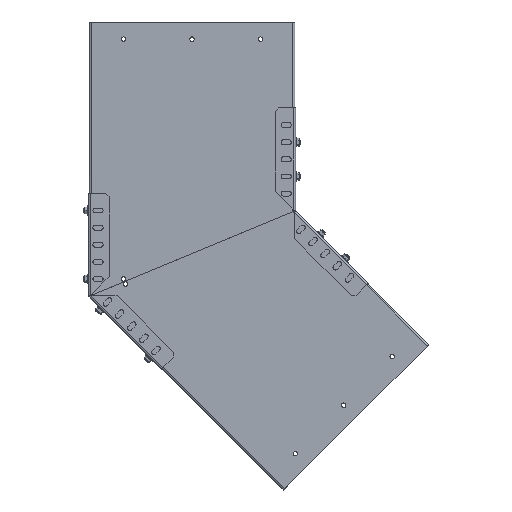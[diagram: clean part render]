
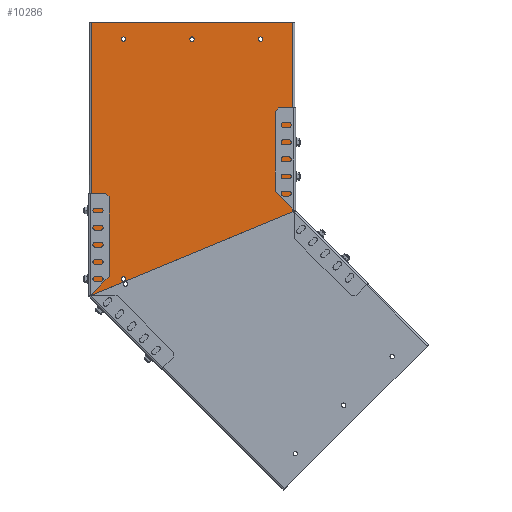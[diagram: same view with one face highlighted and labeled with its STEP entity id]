
A CAD part, front view. The second image highlights one B-rep face of the part: STEP entity #10286.
In plain terms, the highlighted planar face has unit normal (0, -1, 0).
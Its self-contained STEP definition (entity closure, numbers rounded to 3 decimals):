
#89 = ORIENTED_EDGE ( 'NONE', *, *, #16099, .F. ) ;
#322 = EDGE_CURVE ( 'NONE', #1106, #8700, #13511, .T. ) ;
#341 = EDGE_CURVE ( 'NONE', #1106, #16448, #12726, .T. ) ;
#364 = EDGE_CURVE ( 'NONE', #16448, #11587, #12709, .T. ) ;
#369 = EDGE_CURVE ( 'NONE', #8947, #8679, #12438, .T. ) ;
#1048 = CARTESIAN_POINT ( 'NONE',  ( 147., 0., 200. ) ) ;
#1106 = VERTEX_POINT ( 'NONE', #1048 ) ;
#1314 = ORIENTED_EDGE ( 'NONE', *, *, #322, .F. ) ;
#1603 = EDGE_CURVE ( 'NONE', #8804, #1900, #14546, .T. ) ;
#1900 = VERTEX_POINT ( 'NONE', #14321 ) ;
#2128 = ORIENTED_EDGE ( 'NONE', *, *, #1603, .F. ) ;
#2373 = ORIENTED_EDGE ( 'NONE', *, *, #364, .T. ) ;
#2825 = ORIENTED_EDGE ( 'NONE', *, *, #341, .T. ) ;
#3314 = CARTESIAN_POINT ( 'NONE',  ( -147., 0., 200. ) ) ;
#3336 = VERTEX_POINT ( 'NONE', #14222 ) ;
#3434 = CARTESIAN_POINT ( 'NONE',  ( -3.25, 0., 175. ) ) ;
#3548 = CARTESIAN_POINT ( 'NONE',  ( 147., 0., -76.979 ) ) ;
#3776 = ORIENTED_EDGE ( 'NONE', *, *, #16148, .F. ) ;
#3796 = DIRECTION ( 'NONE',  ( 1., 0., 0. ) ) ;
#3839 = ORIENTED_EDGE ( 'NONE', *, *, #16571, .T. ) ;
#3934 = DIRECTION ( 'NONE',  ( 0., -1., 0. ) ) ;
#3956 = CARTESIAN_POINT ( 'NONE',  ( 100., 0., 175. ) ) ;
#4457 = EDGE_LOOP ( 'NONE', ( #11241, #15599 ) ) ;
#6096 = CARTESIAN_POINT ( 'NONE',  ( -96.75, 0., -175. ) ) ;
#6376 = FACE_BOUND ( 'NONE', #12757, .T. ) ;
#6396 = FACE_BOUND ( 'NONE', #14133, .T. ) ;
#6428 = FACE_BOUND ( 'NONE', #4457, .T. ) ;
#6468 = FACE_BOUND ( 'NONE', #10049, .T. ) ;
#6484 = FACE_OUTER_BOUND ( 'NONE', #13157, .T. ) ;
#6491 = CARTESIAN_POINT ( 'NONE',  ( 150., 0., 200. ) ) ;
#6601 = AXIS2_PLACEMENT_3D ( 'NONE', #16324, #16293, #16233 ) ;
#6961 = CARTESIAN_POINT ( 'NONE',  ( -103.25, 0., 175. ) ) ;
#7420 = AXIS2_PLACEMENT_3D ( 'NONE', #6491, #15282, #7633 ) ;
#7578 = VERTEX_POINT ( 'NONE', #3434 ) ;
#7633 = DIRECTION ( 'NONE',  ( 1., 0., 0. ) ) ;
#8415 = CARTESIAN_POINT ( 'NONE',  ( -103.25, 0., -175. ) ) ;
#8679 = VERTEX_POINT ( 'NONE', #6096 ) ;
#8700 = VERTEX_POINT ( 'NONE', #3548 ) ;
#8804 = VERTEX_POINT ( 'NONE', #16011 ) ;
#8947 = VERTEX_POINT ( 'NONE', #8415 ) ;
#9230 = CIRCLE ( 'NONE', #12599, 3.25 ) ;
#9291 = VECTOR ( 'NONE', #15527, 1000. ) ;
#9325 = CIRCLE ( 'NONE', #12645, 3.25 ) ;
#9328 = LINE ( 'NONE', #15626, #9291 ) ;
#9617 = AXIS2_PLACEMENT_3D ( 'NONE', #3956, #3934, #3796 ) ;
#9850 = DIRECTION ( 'NONE',  ( 1., 0., 0. ) ) ;
#10049 = EDGE_LOOP ( 'NONE', ( #15391, #10529 ) ) ;
#10286 = ADVANCED_FACE ( 'NONE', ( #6484, #6468, #6428, #6376, #6396 ), #13930, .T. ) ;
#10422 = VERTEX_POINT ( 'NONE', #6961 ) ;
#10529 = ORIENTED_EDGE ( 'NONE', *, *, #16059, .T. ) ;
#10721 = CIRCLE ( 'NONE', #14360, 3.25 ) ;
#10926 = CIRCLE ( 'NONE', #14468, 3.25 ) ;
#10968 = CARTESIAN_POINT ( 'NONE',  ( -147., 0., -198.757 ) ) ;
#11111 = AXIS2_PLACEMENT_3D ( 'NONE', #16596, #16600, #9850 ) ;
#11163 = CIRCLE ( 'NONE', #14537, 3.25 ) ;
#11208 = CIRCLE ( 'NONE', #6601, 3.25 ) ;
#11241 = ORIENTED_EDGE ( 'NONE', *, *, #16195, .F. ) ;
#11587 = VERTEX_POINT ( 'NONE', #10968 ) ;
#11842 = VERTEX_POINT ( 'NONE', #11858 ) ;
#11858 = CARTESIAN_POINT ( 'NONE',  ( -96.75, 0., 175. ) ) ;
#11970 = DIRECTION ( 'NONE',  ( 0., 0., -1. ) ) ;
#12037 = DIRECTION ( 'NONE',  ( 1., 0., 0. ) ) ;
#12138 = DIRECTION ( 'NONE',  ( 0., -1., 0. ) ) ;
#12298 = VECTOR ( 'NONE', #11970, 1000. ) ;
#12351 = CARTESIAN_POINT ( 'NONE',  ( 0., 0., 175. ) ) ;
#12438 = CIRCLE ( 'NONE', #11111, 3.25 ) ;
#12478 = VECTOR ( 'NONE', #15150, 1000. ) ;
#12599 = AXIS2_PLACEMENT_3D ( 'NONE', #15165, #15162, #15138 ) ;
#12645 = AXIS2_PLACEMENT_3D ( 'NONE', #15338, #15334, #15311 ) ;
#12709 = LINE ( 'NONE', #15648, #12298 ) ;
#12717 = ORIENTED_EDGE ( 'NONE', *, *, #16599, .F. ) ;
#12726 = LINE ( 'NONE', #15407, #12478 ) ;
#12757 = EDGE_LOOP ( 'NONE', ( #3776, #12717 ) ) ;
#13157 = EDGE_LOOP ( 'NONE', ( #3839, #1314, #2825, #2373 ) ) ;
#13259 = VECTOR ( 'NONE', #16432, 1000. ) ;
#13347 = DIRECTION ( 'NONE',  ( 1., 0., 0. ) ) ;
#13359 = DIRECTION ( 'NONE',  ( 0., -1., 0. ) ) ;
#13411 = CARTESIAN_POINT ( 'NONE',  ( -100., 0., 175. ) ) ;
#13511 = LINE ( 'NONE', #16266, #13259 ) ;
#13930 = PLANE ( 'NONE',  #7420 ) ;
#14133 = EDGE_LOOP ( 'NONE', ( #89, #2128 ) ) ;
#14222 = CARTESIAN_POINT ( 'NONE',  ( 3.25, 0., 175. ) ) ;
#14321 = CARTESIAN_POINT ( 'NONE',  ( 96.75, 0., 175. ) ) ;
#14360 = AXIS2_PLACEMENT_3D ( 'NONE', #12351, #12138, #12037 ) ;
#14468 = AXIS2_PLACEMENT_3D ( 'NONE', #13411, #13359, #13347 ) ;
#14537 = AXIS2_PLACEMENT_3D ( 'NONE', #14681, #14597, #14578 ) ;
#14546 = CIRCLE ( 'NONE', #9617, 3.25 ) ;
#14578 = DIRECTION ( 'NONE',  ( 1., 0., 0. ) ) ;
#14597 = DIRECTION ( 'NONE',  ( 0., -1., 0. ) ) ;
#14681 = CARTESIAN_POINT ( 'NONE',  ( 100., 0., 175. ) ) ;
#15138 = DIRECTION ( 'NONE',  ( 1., 0., 0. ) ) ;
#15150 = DIRECTION ( 'NONE',  ( -1., 0., 0. ) ) ;
#15162 = DIRECTION ( 'NONE',  ( 0., -1., 0. ) ) ;
#15165 = CARTESIAN_POINT ( 'NONE',  ( -100., 0., 175. ) ) ;
#15282 = DIRECTION ( 'NONE',  ( 0., -1., 0. ) ) ;
#15311 = DIRECTION ( 'NONE',  ( 1., 0., 0. ) ) ;
#15334 = DIRECTION ( 'NONE',  ( 0., -1., 0. ) ) ;
#15338 = CARTESIAN_POINT ( 'NONE',  ( 0., 0., 175. ) ) ;
#15391 = ORIENTED_EDGE ( 'NONE', *, *, #369, .T. ) ;
#15407 = CARTESIAN_POINT ( 'NONE',  ( 0., 0., 200. ) ) ;
#15527 = DIRECTION ( 'NONE',  ( 0.924, 0., 0.383 ) ) ;
#15599 = ORIENTED_EDGE ( 'NONE', *, *, #16576, .F. ) ;
#15626 = CARTESIAN_POINT ( 'NONE',  ( -150., 0., -200. ) ) ;
#15648 = CARTESIAN_POINT ( 'NONE',  ( -147., 0., 200. ) ) ;
#16011 = CARTESIAN_POINT ( 'NONE',  ( 103.25, 0., 175. ) ) ;
#16059 = EDGE_CURVE ( 'NONE', #8679, #8947, #11208, .T. ) ;
#16099 = EDGE_CURVE ( 'NONE', #1900, #8804, #11163, .T. ) ;
#16148 = EDGE_CURVE ( 'NONE', #10422, #11842, #10926, .T. ) ;
#16195 = EDGE_CURVE ( 'NONE', #7578, #3336, #10721, .T. ) ;
#16233 = DIRECTION ( 'NONE',  ( 1., 0., 0. ) ) ;
#16266 = CARTESIAN_POINT ( 'NONE',  ( 147., 0., 200. ) ) ;
#16293 = DIRECTION ( 'NONE',  ( 0., 1., 0. ) ) ;
#16324 = CARTESIAN_POINT ( 'NONE',  ( -100., 0., -175. ) ) ;
#16432 = DIRECTION ( 'NONE',  ( 0., 0., -1. ) ) ;
#16448 = VERTEX_POINT ( 'NONE', #3314 ) ;
#16571 = EDGE_CURVE ( 'NONE', #11587, #8700, #9328, .T. ) ;
#16576 = EDGE_CURVE ( 'NONE', #3336, #7578, #9325, .T. ) ;
#16596 = CARTESIAN_POINT ( 'NONE',  ( -100., 0., -175. ) ) ;
#16599 = EDGE_CURVE ( 'NONE', #11842, #10422, #9230, .T. ) ;
#16600 = DIRECTION ( 'NONE',  ( 0., 1., 0. ) ) ;
